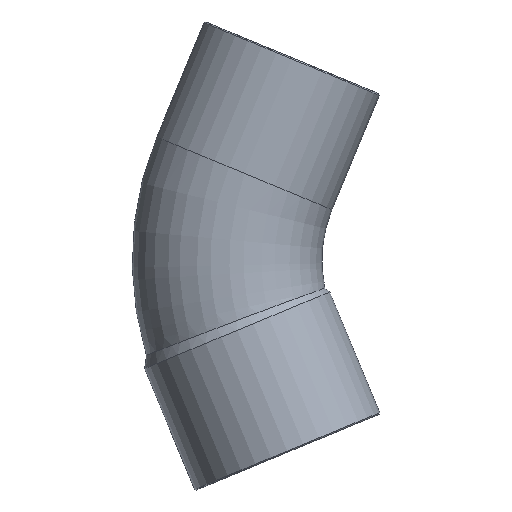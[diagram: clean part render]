
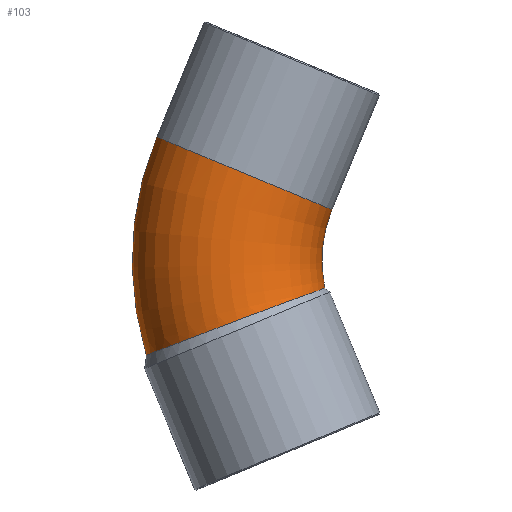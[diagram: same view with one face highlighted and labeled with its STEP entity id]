
A CAD part, front view. The second image highlights one B-rep face of the part: STEP entity #103.
In plain terms, the highlighted toroidal (fillet/blend) face has major radius 38.4 mm and minor radius 16 mm.
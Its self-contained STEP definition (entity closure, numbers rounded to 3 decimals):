
#44=CARTESIAN_POINT('',(4.435,0.,0.));
#45=DIRECTION('',(0.,1.0,0.));
#46=DIRECTION('',(-0.383,0.,0.924));
#47=AXIS2_PLACEMENT_3D('',#44,#45,#46);
#48=TOROIDAL_SURFACE('',#47,38.4,16.0);
#49=CARTESIAN_POINT('',(-47.562,0.,-15.991));
#50=VERTEX_POINT('',#49);
#51=CARTESIAN_POINT('',(-45.824,0.,20.818));
#52=VERTEX_POINT('',#51);
#53=CARTESIAN_POINT('',(4.435,0.,0.));
#54=DIRECTION('',(0.0,1.0,0.0));
#55=DIRECTION('',(0.0,0.0,1.0));
#56=AXIS2_PLACEMENT_3D('',#53,#54,#55);
#57=CIRCLE('',#56,54.4);
#58=EDGE_CURVE('',#50,#52,#57,.T.);
#59=ORIENTED_EDGE('',*,*,#58,.F.);
#60=CARTESIAN_POINT('',(-17.471,0.,-4.677));
#61=VERTEX_POINT('',#60);
#62=CARTESIAN_POINT('',(-47.562,0.,-15.991));
#63=CARTESIAN_POINT('',(-47.562,-1.178,-15.991));
#64=CARTESIAN_POINT('',(-47.44,-2.352,-15.943));
#65=CARTESIAN_POINT('',(-46.958,-4.651,-15.757));
#66=CARTESIAN_POINT('',(-46.599,-5.768,-15.617));
#67=CARTESIAN_POINT('',(-45.297,-8.718,-15.113));
#68=CARTESIAN_POINT('',(-44.129,-10.409,-14.661));
#69=CARTESIAN_POINT('',(-41.246,-13.223,-13.549));
#70=CARTESIAN_POINT('',(-39.558,-14.315,-12.9));
#71=CARTESIAN_POINT('',(-35.877,-15.748,-11.493));
#72=CARTESIAN_POINT('',(-33.918,-16.073,-10.748));
#73=CARTESIAN_POINT('',(-29.988,-15.9,-9.265));
#74=CARTESIAN_POINT('',(-28.055,-15.404,-8.541));
#75=CARTESIAN_POINT('',(-24.479,-13.652,-7.214));
#76=CARTESIAN_POINT('',(-22.868,-12.416,-6.623));
#77=CARTESIAN_POINT('',(-20.192,-9.37,-5.65));
#78=CARTESIAN_POINT('',(-19.147,-7.592,-5.274));
#79=CARTESIAN_POINT('',(-17.804,-3.846,-4.794));
#80=CARTESIAN_POINT('',(-17.471,-1.931,-4.677));
#81=CARTESIAN_POINT('',(-17.471,0.,-4.677));
#82=B_SPLINE_CURVE_WITH_KNOTS('',3,(#62,#63,#64,#65,#66,#67,#68,#69,#70,#71,#72,#73,#74,#75,#76,#77,#78,#79,#80,#81),.UNSPECIFIED.,.F.,.U.,(4,2,2,2,2,2,2,2,2,4),(-10.105,-9.752,-9.398,-8.773,-8.145,-7.515,-6.884,-6.256,-5.633,-5.053),.UNSPECIFIED.);
#83=EDGE_CURVE('',#50,#61,#82,.T.);
#84=ORIENTED_EDGE('',*,*,#83,.T.);
#85=CARTESIAN_POINT('',(-16.26,0.,8.572));
#86=VERTEX_POINT('',#85);
#87=CARTESIAN_POINT('',(4.435,0.,0.));
#88=DIRECTION('',(0.0,-1.0,0.0));
#89=DIRECTION('',(0.0,0.0,1.0));
#90=AXIS2_PLACEMENT_3D('',#87,#88,#89);
#91=CIRCLE('',#90,22.4);
#92=EDGE_CURVE('',#86,#61,#91,.T.);
#93=ORIENTED_EDGE('',*,*,#92,.F.);
#94=CARTESIAN_POINT('',(-31.042,0.,14.695));
#95=DIRECTION('',(-0.383,0.,-0.924));
#96=DIRECTION('',(-0.924,0.,0.383));
#97=AXIS2_PLACEMENT_3D('',#94,#95,#96);
#98=CIRCLE('',#97,16.);
#99=EDGE_CURVE('',#86,#52,#98,.T.);
#100=ORIENTED_EDGE('',*,*,#99,.T.);
#101=EDGE_LOOP('',(#59,#84,#93,#100));
#102=FACE_OUTER_BOUND('',#101,.T.);
#103=ADVANCED_FACE('',(#102),#48,.T.);
